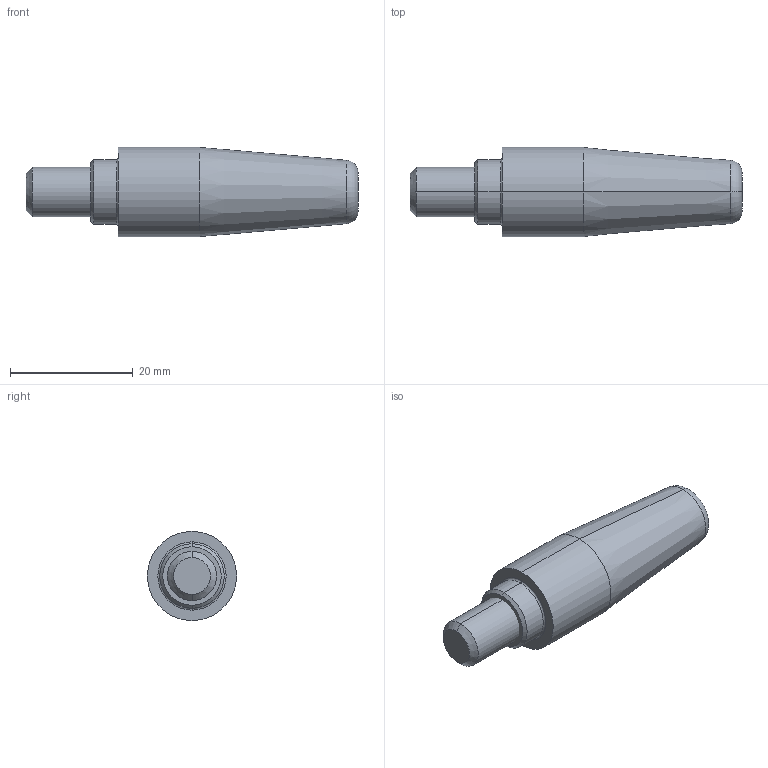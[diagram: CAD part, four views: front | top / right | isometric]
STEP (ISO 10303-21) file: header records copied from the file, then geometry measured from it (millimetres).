
FILE_DESCRIPTION (( 'STEP AP214' ), '1' );
FILE_NAME ('66087.STEP', '2021-10-29T10:59:10', ( '' ), ( '' ), 'SwSTEP 2.0', 'SolidWorks 2019', '' );
FILE_SCHEMA (( 'AUTOMOTIVE_DESIGN' ));
Length unit declared in the file: millimetre
Products named in the file (1): 66087
Bounding box: 54 x 14.5 x 14.5 mm (x, y, z)
Volume: 6631.8 mm3; surface area: 2536.7 mm2
Topology: 2 solids, 2 shells, 23 faces, 42 edges, 24 vertices
Faces by surface type: cone 8, cylinder 6, plane 5, torus 4
Entity records: 864 total; most frequent: DIRECTION 118, CARTESIAN_POINT 90, ORIENTED_EDGE 84, AXIS2_PLACEMENT_3D 52, EDGE_CURVE 42, CIRCLE 28, UNCERTAINTY_MEASURE_WITH_UNIT 27, STYLED_ITEM 26
